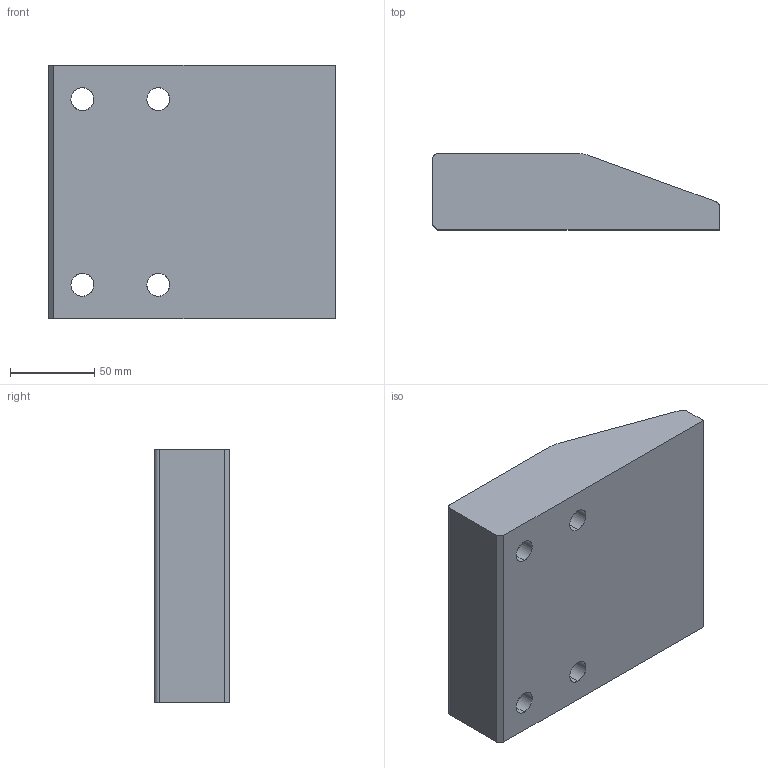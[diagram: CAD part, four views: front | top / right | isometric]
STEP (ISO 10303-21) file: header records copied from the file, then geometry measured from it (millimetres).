
FILE_DESCRIPTION(('CATIA V5 STEP Exchange'),'2;1');
FILE_NAME('C:\Users\Utente\Desktop\3D files A934\A934-15017045.stp','2020-04-17T08:26:54+00:00',('none'),('none'),'CATIA Version 5 Release 20 GA (IN-10)','CATIA V5 STEP AP203','none');
FILE_SCHEMA(('CONFIG_CONTROL_DESIGN'));
Length unit declared in the file: millimetre
Products named in the file (1): Noname
Bounding box: 170 x 45 x 150 mm (x, y, z)
Surface area: 81944.4 mm2 (no closed solid volume)
Topology: 0 solids, 27 shells, 39 faces, 158 edges, 134 vertices
Faces by surface type: cylinder 19, extrusion 12, revolution 8
Entity records: 2130 total; most frequent: CARTESIAN_POINT 868, ORIENTED_EDGE 182, DIRECTION 174, EDGE_CURVE 158, VERTEX_POINT 134, AXIS2_PLACEMENT_3D 82, VECTOR 66, B_SPLINE_CURVE_WITH_KNOTS 62
